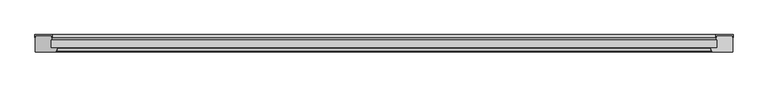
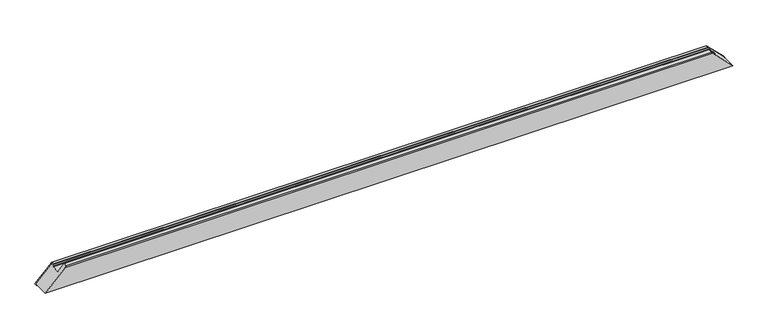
"""IFC4 building model written with IfcOpenShell, lengths in millimetres: proxy geometry, Weiku - Montante - Caixilho 02.2.01.005 : Weiku - Montante - Caixilho 02.2.01.005."""

from ifc_helpers import new_model, si_unit, frame, origin, place, context, project, spatial, ellipse_curve, faceted_brep, source, transform, mapped, element, save
from ifc_brep_helpers import plane_surface, cylinder_surface, advanced_brep


def generic_models_f59caf98(model_context):
    return source(origin(), model_context, "Body", "SolidModel", [
        faceted_brep([(-1047.5, 43.5137905, 0.0), (-1047.5, 50.0, 0.0), (-998.5, 50.0, 49.0), (-998.5, 43.5137905, 49.0), (-996.5, 43.5137905, 51.0), (-996.5, 52.0, 51.0), (-1048.5, 52.0, -1.0), (-1048.5, 43.5137905, -1.0), (1047.5, 50.0, 0.0), (1047.5, 43.5137905, 0.0), (1048.5, 43.5137905, -1.0), (1048.5, 52.0, -1.0), (996.5, 52.0, 51.0), (996.5, 43.5137905, 51.0), (998.5, 43.5137905, 49.0), (998.5, 50.0, 49.0)], [[[0, 1, 2, 3, 4, 5, 6, 7]], [[8, 9, 10, 11, 12, 13, 14, 15]], [[1, 0, 9, 8]], [[2, 1, 8, 15]], [[3, 2, 15, 14]], [[4, 3, 14, 13]], [[5, 4, 13, 12]], [[6, 5, 12, 11]], [[7, 6, 11, 10]], [[0, 7, 10, 9]]]),
        advanced_brep(
        [(-1001.5, 12.5, 46.0), (-981.3909676, 12.5, 66.1090324), (981.3909676, 12.5, 66.1090324), (1001.5, 12.5, 46.0), (-1001.5, 37.8314286, 46.0), (1001.5, 37.8314286, 46.0), (-998.5, 37.027581, 49.0), (998.5, 37.027581, 49.0), (-998.5, 50.0, 49.0), (998.5, 50.0, 49.0), (1047.5, 50.0, 0.0), (-1047.5, 50.0, 0.0), (1047.5, 0.0, 0.0), (-1047.5, 0.0, 0.0), (985.9997332, 0.0, 61.5002668), (-985.9997332, 0.0, 61.5002668), (-980.618227, 11.4929448, 66.881773), (-983.1019557, 2.2235429, 64.3980443), (983.1019557, 2.2235429, 64.3980443), (980.618227, 11.4929448, 66.881773)],
        [
            (0, 1),
            (1, 2),
            (2, 3),
            (3, 0),
            (4, 0),
            (3, 5),
            (5, 4),
            (6, 4),
            (5, 7),
            (7, 6),
            (8, 6),
            (7, 9),
            (9, 8),
            (10, 11),
            (11, 8),
            (9, 10),
            (10, 12),
            (12, 13),
            (13, 11),
            (12, 14),
            (14, 15),
            (15, 13),
            (16, 17),
            (17, 18),
            (18, 19),
            (19, 16),
            (15, 17, ellipse_curve(frame((-985.9997332, 3.0, 61.5002668), z_axis=(-0.7071067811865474, 0.0, 0.7071067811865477), x_axis=(-0.7071067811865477, 0.0, -0.7071067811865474)), 4.2426407, 3.0)),
            (16, 1, ellipse_curve(frame((-981.3909676, 11.7, 66.1090324), z_axis=(-0.7071067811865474, 0.0, 0.7071067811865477), x_axis=(-0.7071067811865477, 0.0, -0.7071067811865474)), 1.1313708, 0.8)),
            (2, 19, ellipse_curve(frame((981.3909676, 11.7, 66.1090324), z_axis=(0.7071067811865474, 0.0, 0.7071067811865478), x_axis=(-0.7071067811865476, 0.0, 0.7071067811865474)), 1.1313708, 0.8)),
            (18, 14, ellipse_curve(frame((985.9997332, 3.0, 61.5002668), z_axis=(0.7071067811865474, 0.0, 0.7071067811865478), x_axis=(-0.7071067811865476, 0.0, 0.7071067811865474)), 4.2426407, 3.0)),
        ],
        [
            plane_surface(frame((-1047.5, 12.5, 66.1090324), z_axis=(0.0, 1.0, 0.0), x_axis=(1.0, 0.0, 0.0))),
            plane_surface(frame((-1047.5, 12.5, 46.0), z_axis=(0.0, 0.0, 1.0), x_axis=(1.0, 0.0, 0.0))),
            plane_surface(frame((-1047.5, 37.8314286, 46.0), z_axis=(0.0, -0.9659258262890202, -0.2588190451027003), x_axis=(1.0, 0.0, 0.0))),
            plane_surface(frame((-1047.5, 37.027581, 49.0), z_axis=(0.0, 0.0, 1.0), x_axis=(1.0, 0.0, 0.0))),
            plane_surface(frame((-1047.5, 50.0, 49.0), z_axis=(0.0, 1.0, 0.0), x_axis=(1.0, 0.0, 0.0))),
            plane_surface(frame((-1047.5, 50.0, 0.0), z_axis=(0.0, 0.0, -1.0), x_axis=(1.0, 0.0, 0.0))),
            plane_surface(frame((-1047.5, 0.0, 0.0), z_axis=(0.0, -1.0, 0.0), x_axis=(1.0, 0.0, 0.0))),
            plane_surface(frame((-1047.5, 2.2235429, 64.3980443), z_axis=(0.0, -0.2588190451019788, 0.9659258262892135), x_axis=(1.0, 0.0, 0.0))),
            plane_surface(frame((-1117.5, -15.0, -70.0), z_axis=(-0.7071067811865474, 0.0, 0.7071067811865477), x_axis=(0.0, 1.0, 0.0))),
            plane_surface(frame((977.5, -15.0, 70.0), z_axis=(0.7071067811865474, 0.0, 0.7071067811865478), x_axis=(0.0, 1.0, 0.0))),
            cylinder_surface(frame((-1047.5, 11.7, 66.1090324), z_axis=(-1.0, 0.0, 0.0), x_axis=(0.0, 1.0, 0.0)), 0.8),
            cylinder_surface(frame((-1047.5, 3.0, 61.5002668), z_axis=(-1.0, 0.0, 0.0), x_axis=(0.0, 1.0, 0.0)), 3.0),
        ],
        [
            (0, [[1, 2, 3, 4]]),
            (1, [[5, -4, 6, 7]]),
            (2, [[8, -7, 9, 10]]),
            (3, [[11, -10, 12, 13]]),
            (4, [[14, 15, -13, 16]]),
            (5, [[-14, 17, 18, 19]]),
            (6, [[-18, 20, 21, 22]]),
            (7, [[23, 24, 25, 26]]),
            (8, [[-1, -5, -8, -11, -15, -19, -22, 27, -23, 28]]),
            (9, [[-3, 29, -25, 30, -20, -17, -16, -12, -9, -6]]),
            (10, [[-28, -26, -29, -2]]),
            (11, [[-27, -21, -30, -24]]),
        ],
    ),
    ])


if __name__ == "__main__":
    model = new_model("IFC4")
    model_context = context("Model", 3, world=origin())
    ifc_project = project(units=[si_unit("LENGTHUNIT", "METRE", prefix="MILLI")], contexts=[model_context])
    site = spatial("IfcSite", under=ifc_project)
    building = spatial("IfcBuilding", under=site)
    placement = place(None, origin())
    generic_models_shape = generic_models_f59caf98(model_context)
    element("IfcBuildingElementProxy", 1, Name="Weiku - Montante - Caixilho 02.2.01.005 : Weiku - Montante - Caixilho 02.2.01.005", ObjectType="Weiku - Montante - Caixilho 02.2.01.005 : Weiku - Montante - Caixilho 02.2.01.005", at=placement, inside=building, context=model_context, shape_type="MappedRepresentation", body=[
        mapped(generic_models_shape, transform((0.0, 0.0, 0.0), x_axis=(1.0, 0.0, 0.0), y_axis=(0.0, 1.0, 0.0), z_axis=(0.0, 0.0, 1.0))),
    ])
    save(model, "model.ifc")
